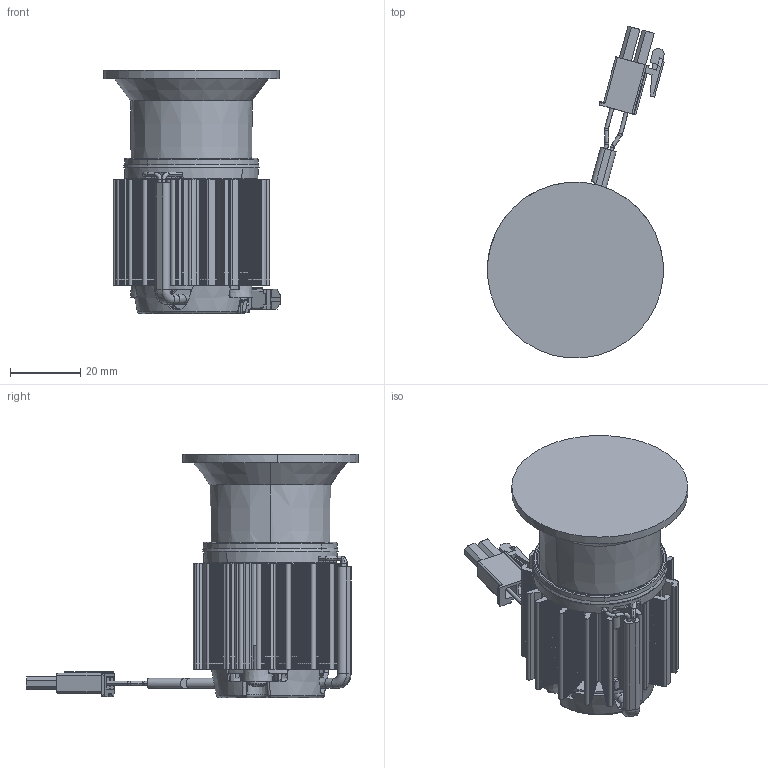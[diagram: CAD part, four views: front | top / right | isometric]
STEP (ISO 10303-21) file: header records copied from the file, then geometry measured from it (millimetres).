
FILE_DESCRIPTION(('Creo Elements/Direct Modeling STEP Export'),'2;1');
FILE_NAME('ACTIVE_HALO_PLUS_H30.stp','2018-02-21T 8:19:47',(''),(''),'Creo Elements/Direct Modeling STEP processor for AP214 (Solid Model)','Creo Elements/Direct Modeling 19.0F 14-Feb-2017 (C) Parametric Technology GmbH','');
FILE_SCHEMA(('AUTOMOTIVE_DESIGN { 1 0 10303 214 1 1 1 1 }'));
Length unit declared in the file: millimetre
Products named in the file (9): COP_MASCHIO; CAVO_CONN; CAVO; DMS123G; SRC; DISSIPATORE_D45_H50; RIFLETTORE; HOLDER_13_5X13_5; ACTIVE_LUGA_PLUS_H30
Assembly tree (8 placements, depth 2):
  ACTIVE_LUGA_PLUS_H30
    HOLDER_13_5X13_5
    RIFLETTORE
    DISSIPATORE_D45_H50
    SRC
    DMS123G
    CAVO
    CAVO_CONN
    COP_MASCHIO
Bounding box: 50.27 x 94.3 x 69.05 mm (x, y, z)
Volume: 54087.5 mm3; surface area: 39057.6 mm2
Topology: 8 solids, 8 shells, 2672 faces, 7584 edges, 4932 vertices
Faces by surface type: plane 1545, cylinder 575, bspline 319, torus 106, cone 105, sphere 22
Entity records: 119434 total; most frequent: CARTESIAN_POINT 52941, ORIENTED_EDGE 15124, DIRECTION 11982, EDGE_CURVE 7562, VERTEX_POINT 4932, VECTOR 4760, LINE 4760, AXIS2_PLACEMENT_3D 3611
